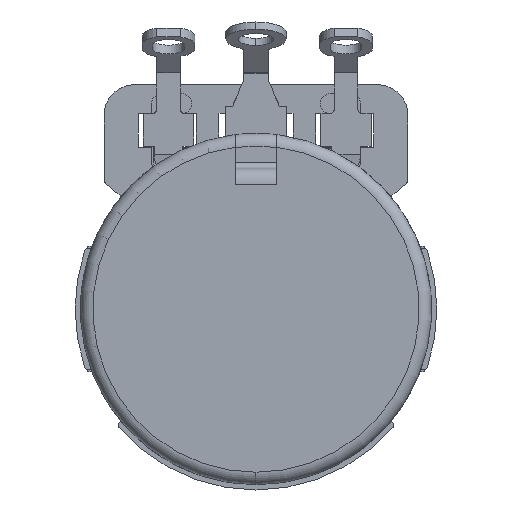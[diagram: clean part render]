
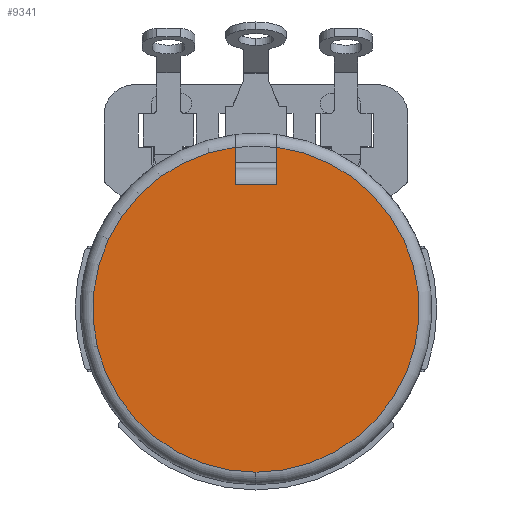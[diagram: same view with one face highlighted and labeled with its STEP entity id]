
A CAD part, front view. The second image highlights one B-rep face of the part: STEP entity #9341.
In plain terms, the highlighted planar face has unit normal (0, -1, 0).
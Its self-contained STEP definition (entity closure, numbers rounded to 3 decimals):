
#329 = DIRECTION ( 'NONE',  ( 0., 0., -1. ) ) ;
#1478 = CIRCLE ( 'NONE', #16870, 10.973 ) ;
#2709 = LINE ( 'NONE', #6303, #11346 ) ;
#2834 = VERTEX_POINT ( 'NONE', #19049 ) ;
#4265 = DIRECTION ( 'NONE',  ( 0., 0., 1. ) ) ;
#4661 = ORIENTED_EDGE ( 'NONE', *, *, #21606, .T. ) ;
#5346 = EDGE_CURVE ( 'NONE', #13822, #8514, #21152, .T. ) ;
#5598 = CARTESIAN_POINT ( 'NONE',  ( 0., 0., -10.973 ) ) ;
#6287 = VECTOR ( 'NONE', #19265, 1000. ) ;
#6303 = CARTESIAN_POINT ( 'NONE',  ( -1.397, 0., 8.382 ) ) ;
#6716 = CARTESIAN_POINT ( 'NONE',  ( 0., 0., 0. ) ) ;
#6722 = DIRECTION ( 'NONE',  ( -1., 0., 0. ) ) ;
#7414 = CARTESIAN_POINT ( 'NONE',  ( 1.397, 0., 12.522 ) ) ;
#8436 = DIRECTION ( 'NONE',  ( 0., -1., 0. ) ) ;
#8514 = VERTEX_POINT ( 'NONE', #17029 ) ;
#8608 = DIRECTION ( 'NONE',  ( 0., 0., -1. ) ) ;
#9240 = ORIENTED_EDGE ( 'NONE', *, *, #13266, .T. ) ;
#9341 = ADVANCED_FACE ( 'NONE', ( #17166 ), #18952, .T. ) ;
#9703 = DIRECTION ( 'NONE',  ( 0., -1., 0. ) ) ;
#10648 = CARTESIAN_POINT ( 'NONE',  ( 1.397, 0., 8.382 ) ) ;
#11346 = VECTOR ( 'NONE', #6722, 1000. ) ;
#11488 = CARTESIAN_POINT ( 'NONE',  ( 0., 0., 0. ) ) ;
#12426 = CARTESIAN_POINT ( 'NONE',  ( -1.397, 0., 12.522 ) ) ;
#13266 = EDGE_CURVE ( 'NONE', #21404, #8514, #2709, .T. ) ;
#13822 = VERTEX_POINT ( 'NONE', #18989 ) ;
#14015 = CARTESIAN_POINT ( 'NONE',  ( -5.207, 0., 0. ) ) ;
#14346 = LINE ( 'NONE', #7414, #14445 ) ;
#14445 = VECTOR ( 'NONE', #4265, 1000. ) ;
#14566 = AXIS2_PLACEMENT_3D ( 'NONE', #6716, #18912, #8608 ) ;
#15260 = CIRCLE ( 'NONE', #14566, 10.973 ) ;
#15424 = ORIENTED_EDGE ( 'NONE', *, *, #5346, .F. ) ;
#15784 = EDGE_CURVE ( 'NONE', #13822, #16289, #1478, .T. ) ;
#16289 = VERTEX_POINT ( 'NONE', #5598 ) ;
#16441 = EDGE_LOOP ( 'NONE', ( #17308, #9240, #15424, #16724, #4661 ) ) ;
#16724 = ORIENTED_EDGE ( 'NONE', *, *, #15784, .T. ) ;
#16870 = AXIS2_PLACEMENT_3D ( 'NONE', #11488, #9703, #22037 ) ;
#17029 = CARTESIAN_POINT ( 'NONE',  ( -1.397, 0., 8.382 ) ) ;
#17166 = FACE_OUTER_BOUND ( 'NONE', #16441, .T. ) ;
#17308 = ORIENTED_EDGE ( 'NONE', *, *, #19528, .F. ) ;
#18912 = DIRECTION ( 'NONE',  ( 0., -1., 0. ) ) ;
#18952 = PLANE ( 'NONE',  #20412 ) ;
#18989 = CARTESIAN_POINT ( 'NONE',  ( -1.397, 0., 10.884 ) ) ;
#19049 = CARTESIAN_POINT ( 'NONE',  ( 1.397, 0., 10.884 ) ) ;
#19265 = DIRECTION ( 'NONE',  ( 0., 0., -1. ) ) ;
#19528 = EDGE_CURVE ( 'NONE', #21404, #2834, #14346, .T. ) ;
#20412 = AXIS2_PLACEMENT_3D ( 'NONE', #14015, #8436, #329 ) ;
#21152 = LINE ( 'NONE', #12426, #6287 ) ;
#21404 = VERTEX_POINT ( 'NONE', #10648 ) ;
#21606 = EDGE_CURVE ( 'NONE', #16289, #2834, #15260, .T. ) ;
#22037 = DIRECTION ( 'NONE',  ( 0., 0., -1. ) ) ;
